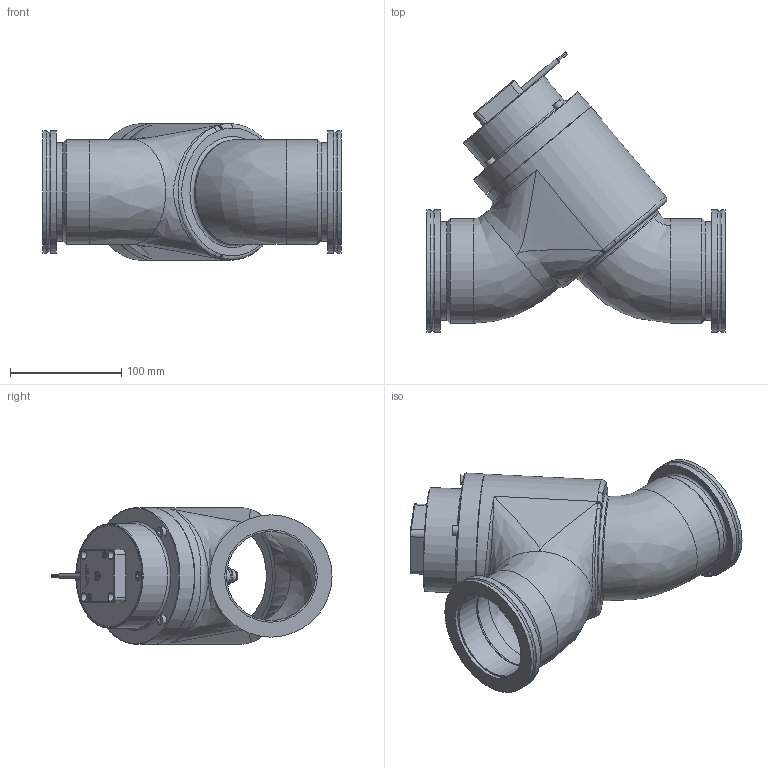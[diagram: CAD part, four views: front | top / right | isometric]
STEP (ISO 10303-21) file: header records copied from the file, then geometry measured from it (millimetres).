
FILE_DESCRIPTION(/* description */ (''),/* implementation_level */ '2;1');
FILE_NAME(/* name */ '1873265630_203.stp',/* time_stamp */ '2015-08-11T08:50:32+02:00',/* author */ (''),/* organization */ (''),/* preprocessor_version */ 'ST-DEVELOPER v15',/* originating_system */ 'SIEMENS PLM Software NX 9.0',/* authorisation */ '');
FILE_SCHEMA (('AP203_CONFIGURATION_CONTROLLED_3D_DESIGN_OF_MECHANICAL_PARTS_AND_ASSEMBLIES_MIM_LF { 1 0 10303 403 2 1 2}'));
Length unit declared in the file: millimetre
Products named in the file (11): 239888_6.1; 233359; 236204_1.1; 467442; 254383; 224796.1; N-6013-443.2; 243267.7; 259415.2; 402922; 354172.1
Assembly tree (15 placements, depth 3):
  354172.1
    259415.2
    243267.7
    N-6013-443.2  x2
    224796.1  x4
    254383
    402922
      236204_1.1  x2
      233359
      239888_6.1
    467442
Bounding box: 268 x 251.9 x 123 mm (x, y, z)
Volume: 935759.6 mm3; surface area: 316882.8 mm2
Topology: 22 solids, 22 shells, 629 faces, 1515 edges, 972 vertices
Faces by surface type: plane 326, cylinder 143, cone 76, bspline 63, torus 21
Full cylindrical faces by diameter (mm): 1.4 x8, 3 x6, 3.1 x1, 3.3 x2, 4 x3, 4.16 x4, 4.2 x8, 4.5 x2, 4.6 x2, 4.7 x2, 5 x12, 5.5 x4, 5.6 x2, 7 x1, 7.4 x1, 7.5 x2, 8 x1, 8.5 x4, 8.611 x1, 9 x1, 10.1 x1, 12 x1, 15.975 x3, 16.5 x2, 18.009 x1, 20.45 x1, 26 x1, 30.5 x1, 75.05 x1, 80 x3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
Entity records: 21669 total; most frequent: CARTESIAN_POINT 7766, DIRECTION 2370, ORIENTED_EDGE 2250, EDGE_CURVE 1125, AXIS2_PLACEMENT_3D 893, VERTEX_POINT 820, EDGE_LOOP 777, LINE 584
